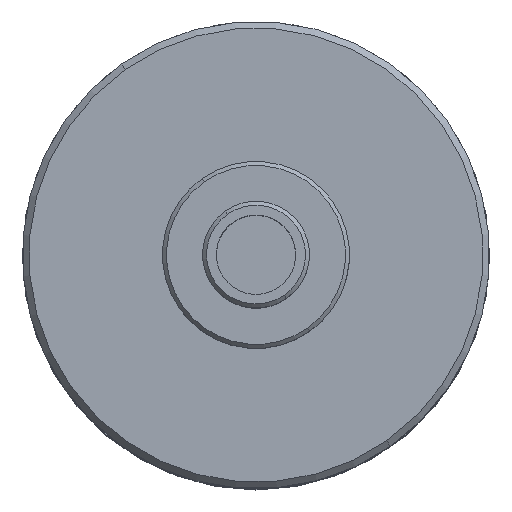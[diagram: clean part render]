
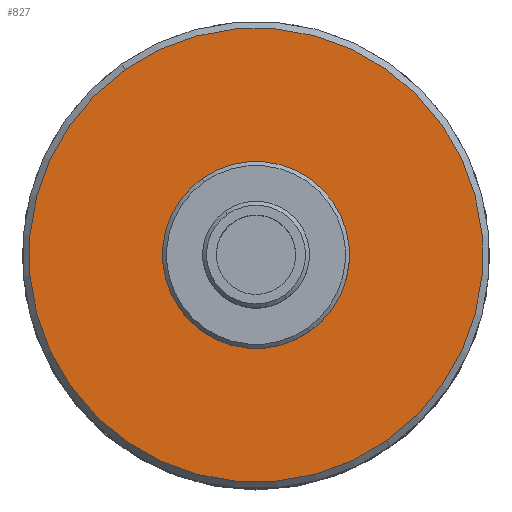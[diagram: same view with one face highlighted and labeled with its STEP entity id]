
A CAD part, top view. The second image highlights one B-rep face of the part: STEP entity #827.
In plain terms, the highlighted planar face has unit normal (0, 0, 1).
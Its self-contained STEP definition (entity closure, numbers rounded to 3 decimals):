
#110 = EDGE_CURVE ( 'NONE', #1311, #2842, #1065, .T. ) ;
#254 = EDGE_CURVE ( 'NONE', #1874, #1342, #1678, .T. ) ;
#297 = ORIENTED_EDGE ( 'NONE', *, *, #110, .T. ) ;
#370 = ORIENTED_EDGE ( 'NONE', *, *, #254, .F. ) ;
#376 = AXIS2_PLACEMENT_3D ( 'NONE', #960, #501, #1951 ) ;
#441 = CARTESIAN_POINT ( 'NONE',  ( -7.371, 8.222, 68.85 ) ) ;
#444 = CIRCLE ( 'NONE', #1896, 17. ) ;
#464 = DIRECTION ( 'NONE',  ( -0.575, 0.818, 0. ) ) ;
#480 = CARTESIAN_POINT ( 'NONE',  ( 6.436, -11.409, 68.85 ) ) ;
#489 = ORIENTED_EDGE ( 'NONE', *, *, #786, .T. ) ;
#498 = CARTESIAN_POINT ( 'NONE',  ( -3.344, 2.496, 68.85 ) ) ;
#501 = DIRECTION ( 'NONE',  ( 0., 0., 1. ) ) ;
#646 = EDGE_LOOP ( 'NONE', ( #1142, #370 ) ) ;
#731 = CARTESIAN_POINT ( 'NONE',  ( 0.683, -3.229, 68.85 ) ) ;
#743 = DIRECTION ( 'NONE',  ( 0.575, -0.818, 0. ) ) ;
#786 = EDGE_CURVE ( 'NONE', #2842, #1311, #444, .T. ) ;
#827 = ADVANCED_FACE ( 'NONE', ( #1138, #3036 ), #2403, .F. ) ;
#960 = CARTESIAN_POINT ( 'NONE',  ( -3.344, 2.496, 68.85 ) ) ;
#1026 = DIRECTION ( 'NONE',  ( 0., 0., 1. ) ) ;
#1065 = CIRCLE ( 'NONE', #1159, 17. ) ;
#1138 = FACE_BOUND ( 'NONE', #646, .T. ) ;
#1142 = ORIENTED_EDGE ( 'NONE', *, *, #2471, .F. ) ;
#1159 = AXIS2_PLACEMENT_3D ( 'NONE', #2740, #2222, #743 ) ;
#1311 = VERTEX_POINT ( 'NONE', #480 ) ;
#1342 = VERTEX_POINT ( 'NONE', #731 ) ;
#1343 = CIRCLE ( 'NONE', #376, 7. ) ;
#1386 = AXIS2_PLACEMENT_3D ( 'NONE', #2532, #1026, #2510 ) ;
#1445 = CARTESIAN_POINT ( 'NONE',  ( 10.561, 12.276, 68.85 ) ) ;
#1504 = CARTESIAN_POINT ( 'NONE',  ( -13.124, 16.402, 68.85 ) ) ;
#1678 = CIRCLE ( 'NONE', #1386, 7. ) ;
#1730 = EDGE_LOOP ( 'NONE', ( #489, #297 ) ) ;
#1816 = DIRECTION ( 'NONE',  ( 0., 0., 1. ) ) ;
#1874 = VERTEX_POINT ( 'NONE', #441 ) ;
#1896 = AXIS2_PLACEMENT_3D ( 'NONE', #498, #1816, #2588 ) ;
#1951 = DIRECTION ( 'NONE',  ( 0.575, -0.818, 0. ) ) ;
#2222 = DIRECTION ( 'NONE',  ( 0., 0., 1. ) ) ;
#2390 = AXIS2_PLACEMENT_3D ( 'NONE', #1445, #2951, #464 ) ;
#2403 = PLANE ( 'NONE',  #2390 ) ;
#2471 = EDGE_CURVE ( 'NONE', #1342, #1874, #1343, .T. ) ;
#2510 = DIRECTION ( 'NONE',  ( 0.575, -0.818, 0. ) ) ;
#2532 = CARTESIAN_POINT ( 'NONE',  ( -3.344, 2.496, 68.85 ) ) ;
#2588 = DIRECTION ( 'NONE',  ( 0.575, -0.818, 0. ) ) ;
#2740 = CARTESIAN_POINT ( 'NONE',  ( -3.344, 2.496, 68.85 ) ) ;
#2842 = VERTEX_POINT ( 'NONE', #1504 ) ;
#2951 = DIRECTION ( 'NONE',  ( 0., 0., -1. ) ) ;
#3036 = FACE_OUTER_BOUND ( 'NONE', #1730, .T. ) ;
